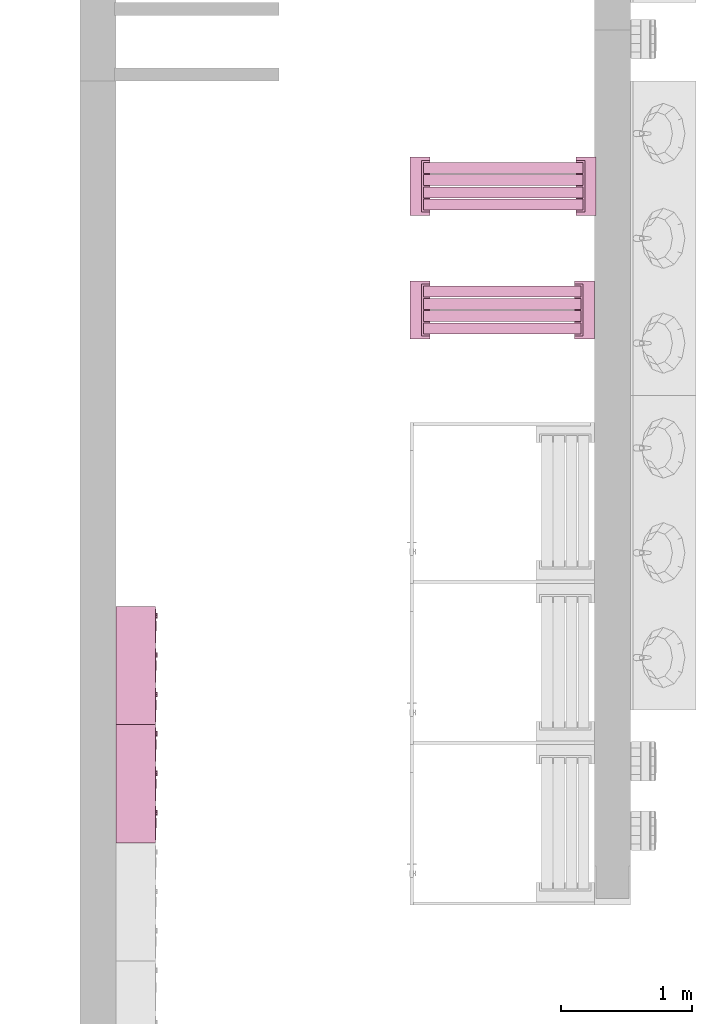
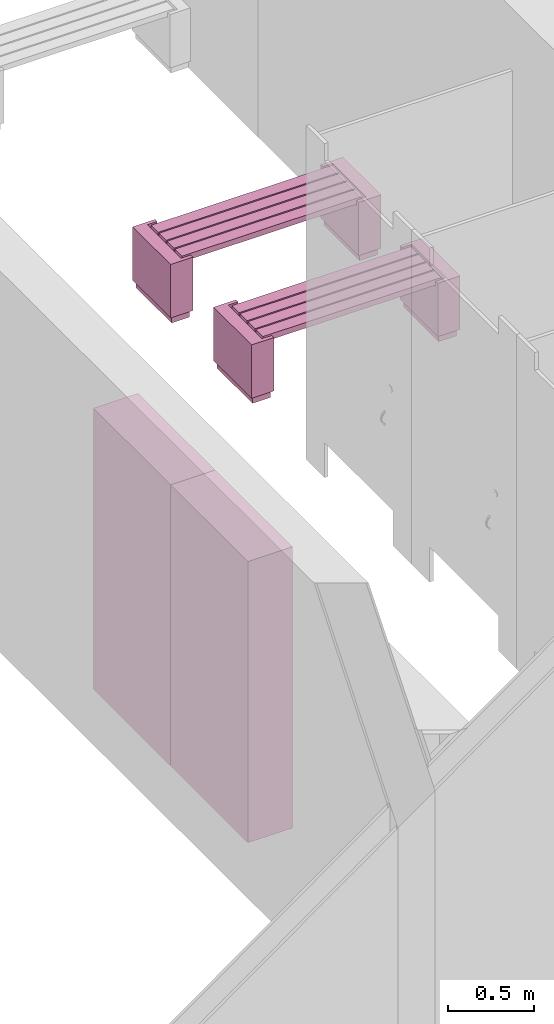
# One storey, part 17 of 22: 4 furnishings.
"""IFC2X3 building model written with IfcOpenShell, lengths in millimetres."""

from ifc_helpers import new_model, entity, si_unit, converted_unit, derived_unit, direction, frame, frame_2d, origin, origin_2d_with_axis, place, context, subcontext, project, spatial, polyline, rectangle, outline, extrude, source, transform, mapped, material, material_list, type_object, type_shapes, element, save


model = new_model("IFC2X3")

# Units and contexts
model_context = context("Model", 3, precision=0.01, world=origin(), true_north=direction((6.12303176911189e-17, 1.0)))
body_context = subcontext(model_context, "Body", "Model", "MODEL_VIEW")
ifc_project = project(units=[si_unit("LENGTHUNIT", "METRE", prefix="MILLI"), si_unit("AREAUNIT", "SQUARE_METRE"), si_unit("VOLUMEUNIT", "CUBIC_METRE"), converted_unit("PLANEANGLEUNIT", "DEGREE", entity("IfcRatioMeasure", 0.0174532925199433), si_unit("PLANEANGLEUNIT", "RADIAN"), dimensions=[0, 0, 0, 0, 0, 0, 0]), si_unit("MASSUNIT", "GRAM", prefix="KILO"), derived_unit("MASSDENSITYUNIT", [(si_unit("MASSUNIT", "GRAM", prefix="KILO"), 1), (si_unit("LENGTHUNIT", "METRE"), -3)]), si_unit("TIMEUNIT", "SECOND"), si_unit("FREQUENCYUNIT", "HERTZ"), si_unit("THERMODYNAMICTEMPERATUREUNIT", "DEGREE_CELSIUS"), derived_unit("THERMALTRANSMITTANCEUNIT", [(si_unit("MASSUNIT", "GRAM", prefix="KILO"), 1), (si_unit("THERMODYNAMICTEMPERATUREUNIT", "KELVIN"), -1), (si_unit("TIMEUNIT", "SECOND"), -3)]), derived_unit("VOLUMETRICFLOWRATEUNIT", [(si_unit("LENGTHUNIT", "METRE"), 3), (si_unit("TIMEUNIT", "SECOND"), -1)]), si_unit("ELECTRICCURRENTUNIT", "AMPERE"), si_unit("ELECTRICVOLTAGEUNIT", "VOLT"), si_unit("POWERUNIT", "WATT"), si_unit("FORCEUNIT", "NEWTON", prefix="KILO"), si_unit("ILLUMINANCEUNIT", "LUX"), si_unit("LUMINOUSFLUXUNIT", "LUMEN"), si_unit("LUMINOUSINTENSITYUNIT", "CANDELA"), derived_unit("USERDEFINED", [(si_unit("MASSUNIT", "GRAM", prefix="KILO"), -1), (si_unit("LENGTHUNIT", "METRE"), -2), (si_unit("TIMEUNIT", "SECOND"), 3), (si_unit("LUMINOUSFLUXUNIT", "LUMEN"), 1)]), derived_unit("LINEARVELOCITYUNIT", [(si_unit("LENGTHUNIT", "METRE"), 1), (si_unit("TIMEUNIT", "SECOND"), -1)]), si_unit("PRESSUREUNIT", "PASCAL"), derived_unit("USERDEFINED", [(si_unit("LENGTHUNIT", "METRE"), -2), (si_unit("MASSUNIT", "GRAM", prefix="KILO"), 1), (si_unit("TIMEUNIT", "SECOND"), -2)])], contexts=[model_context])

# Site, building, storey
site_placement = place(None, origin())
site = spatial("IfcSite", under=ifc_project, at=site_placement, Name="Default", CompositionType="ELEMENT")
building_placement = place(site_placement, origin())
building = spatial("IfcBuilding", under=site, at=building_placement, CompositionType="ELEMENT")
storey_placement = place(building_placement, frame((0.0, 0.0, -3000.0)))
storey = spatial("IfcBuildingStorey", under=building, at=storey_placement, Name="-2. Story", CompositionType="ELEMENT", Elevation=-3000.0)

# Furnishings
ifc_material_1 = material(Name="Metal - Stainless Steel")
ifc_material_2 = material(Name="Paint - Glossy White")
ifc_material_3 = material(Name="Paint - Cobalt Blue")
ifc_material_list_1 = material_list([ifc_material_1, ifc_material_2, ifc_material_3])
ifc_material_list_2 = material_list([ifc_material_1, ifc_material_2, ifc_material_3])
furniture_type_1 = type_object("IfcFurnitureType", Name="FU - 010", material=ifc_material_list_2)
shared_shape_1 = source(origin(), body_context, "Body", "SweptSolid", [
    extrude(outline(polyline([(-7.65366864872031, -18.4775906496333), (7.65366864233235, -18.4775906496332), (18.4775906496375, -7.65366864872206), (18.4775906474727, 7.65366864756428), (7.65366864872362, 18.4775906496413), (-7.65366864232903, 18.4775906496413), (-18.4775906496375, 7.65366864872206), (-18.4775906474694, -7.65366864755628), (-7.65366864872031, -18.4775906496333)])), frame((108074.18836, 77833.9483369, -1400.0), z_axis=(1.0, 0.0, 0.0), x_axis=(0.0, 0.382683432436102, -0.923879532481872)), (0.0, 0.0, 1.0), 10.0000000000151),
    extrude(rectangle(XDim=4.99999999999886, YDim=75.0000000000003, at=frame_2d((-8.66284821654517e-12, 0.0), x_axis=(1.0, 0.0))), frame((108076.68836, 77753.9483369, -1000.0)), (0.0, 0.0, 1.0), 50.0),
    extrude(rectangle(XDim=9.99999999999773, YDim=259.999999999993, at=frame_2d((-1.73256964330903e-11, 0.0), x_axis=(1.0, 0.0))), frame((108069.18836, 77753.9483369, -1880.0), z_axis=(0.0, 0.0, 1.0), x_axis=(-1.0, 0.0, 0.0)), (0.0, 0.0, 1.0), 960.0),
    extrude(rectangle(XDim=19.9999999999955, YDim=300.000000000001, at=origin_2d_with_axis()), frame((107779.18836, 77753.9483369, -1900.0)), (0.0, 0.0, 1.0), 1000.0),
    extrude(outline(polyline([(-150.0, -500.0), (150.0, -500.0), (150.0, 500.0), (-150.0, 500.0), (-150.0, -500.0)]), holes=[polyline([(130.0, 480.0), (130.0, -480.0), (-130.0, -480.0), (-130.0, 480.0), (130.0, 480.0)])]), frame((107789.18836, 77753.9483369, -1400.0), z_axis=(1.0, 0.0, 0.0), x_axis=(0.0, 1.0, 0.0)), (0.0, 0.0, 1.0), 280.000000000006),
    extrude(outline(polyline([(-7.65366864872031, -18.4775906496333), (7.65366864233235, -18.4775906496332), (18.4775906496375, -7.65366864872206), (18.4775906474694, 7.65366864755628), (7.65366864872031, 18.4775906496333), (-7.65366864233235, 18.4775906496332), (-18.4775906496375, 7.65366864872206), (-18.4775906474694, -7.65366864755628), (-7.65366864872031, -18.4775906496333)])), frame((108074.18836, 78133.9483369, -1400.0), z_axis=(1.0, 0.0, 0.0), x_axis=(0.0, 0.382683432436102, -0.923879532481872)), (0.0, 0.0, 1.0), 10.0000000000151),
    extrude(rectangle(XDim=4.99999999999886, YDim=75.0000000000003, at=frame_2d((-8.66284821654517e-12, 0.0), x_axis=(1.0, 0.0))), frame((108076.68836, 78053.9483369, -1000.0)), (0.0, 0.0, 1.0), 50.0),
    extrude(rectangle(XDim=9.99999999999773, YDim=260.00000000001, at=frame_2d((-1.73256964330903e-11, 0.0), x_axis=(1.0, 0.0))), frame((108069.18836, 78053.9483369, -1880.0), z_axis=(0.0, 0.0, 1.0), x_axis=(-1.0, 0.0, 0.0)), (0.0, 0.0, 1.0), 960.0),
    extrude(rectangle(XDim=19.9999999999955, YDim=300.000000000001, at=origin_2d_with_axis()), frame((107779.18836, 78053.9483369, -1900.0)), (0.0, 0.0, 1.0), 1000.0),
    extrude(outline(polyline([(-150.0, -500.0), (150.0, -500.0), (150.0, 500.0), (-150.0, 500.0), (-150.0, -500.0)]), holes=[polyline([(130.0, 480.0), (130.0, -480.0), (-130.0, -480.0), (-130.0, 480.0), (130.0, 480.0)])]), frame((107789.18836, 78053.9483369, -1400.0), z_axis=(1.0, 0.0, 0.0), x_axis=(0.0, 1.0, 0.0)), (0.0, 0.0, 1.0), 280.000000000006),
    extrude(outline(polyline([(-7.65366864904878, -18.4775906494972), (7.65366864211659, -18.4775906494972), (18.4775906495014, -7.65366864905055), (18.4775906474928, 7.65366864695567), (7.65366864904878, 18.4775906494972), (-7.65366864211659, 18.4775906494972), (-18.4775906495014, 7.65366864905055), (-18.4775906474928, -7.65366864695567), (-7.65366864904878, -18.4775906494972)])), frame((108074.18836, 78433.9483369, -1400.0), z_axis=(1.0, 0.0, 0.0), x_axis=(0.0, 0.382683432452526, -0.923879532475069)), (0.0, 0.0, 1.0), 10.0000000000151),
    extrude(rectangle(XDim=4.99999999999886, YDim=75.0000000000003, at=frame_2d((-8.66284821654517e-12, 0.0), x_axis=(1.0, 0.0))), frame((108076.68836, 78353.9483369, -1000.0)), (0.0, 0.0, 1.0), 50.0),
    extrude(rectangle(XDim=9.99999999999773, YDim=260.00000000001, at=frame_2d((-1.73256964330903e-11, 0.0), x_axis=(1.0, 0.0))), frame((108069.18836, 78353.9483369, -1880.0), z_axis=(0.0, 0.0, 1.0), x_axis=(-1.0, 0.0, 0.0)), (0.0, 0.0, 1.0), 960.0),
    extrude(rectangle(XDim=19.9999999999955, YDim=300.000000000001, at=origin_2d_with_axis()), frame((107779.18836, 78353.9483369, -1900.0)), (0.0, 0.0, 1.0), 1000.0),
    extrude(outline(polyline([(-150.0, -500.0), (150.0, -500.0), (150.0, 500.0), (-150.0, 500.0), (-150.0, -500.0)]), holes=[polyline([(130.0, 480.0), (130.0, -480.0), (-130.0, -480.0), (-130.0, 480.0), (130.0, 480.0)])]), frame((107789.18836, 78353.9483369, -1400.0), z_axis=(1.0, 0.0, 0.0), x_axis=(0.0, 1.0, 0.0)), (0.0, 0.0, 1.0), 280.000000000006),
    extrude(outline(polyline([(-7.6536686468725, -18.4775906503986), (7.65366864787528, -18.4775906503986), (18.4775906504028, -7.65366864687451), (18.4775906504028, 7.65366864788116), (7.65366864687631, 18.4775906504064), (-7.65366864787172, 18.4775906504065), (-18.4775906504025, 7.65366864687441), (-18.4775906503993, -7.65366864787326), (-7.6536686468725, -18.4775906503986)])), frame((108074.18836, 77833.9483369, -2400.0), z_axis=(1.0, 0.0, 0.0), x_axis=(0.0, 0.382683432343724, -0.923879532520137)), (0.0, 0.0, 1.0), 10.0000000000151),
    extrude(rectangle(XDim=4.99999999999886, YDim=75.0000000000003, at=frame_2d((-8.66284821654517e-12, 0.0), x_axis=(1.0, 0.0))), frame((108076.68836, 77753.9483369, -2000.0)), (0.0, 0.0, 1.0), 50.0),
    extrude(rectangle(XDim=9.99999999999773, YDim=259.999999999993, at=frame_2d((-1.73256964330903e-11, 0.0), x_axis=(1.0, 0.0))), frame((108069.18836, 77753.9483369, -2880.0), z_axis=(0.0, 0.0, 1.0), x_axis=(-1.0, 0.0, 0.0)), (0.0, 0.0, 1.0), 960.0),
    extrude(rectangle(XDim=19.9999999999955, YDim=300.000000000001, at=origin_2d_with_axis()), frame((107779.18836, 77753.9483369, -2900.0)), (0.0, 0.0, 1.0), 1000.0),
    extrude(outline(polyline([(-150.0, -500.0), (150.0, -500.0), (150.0, 500.0), (-150.0, 500.0), (-150.0, -500.0)]), holes=[polyline([(130.0, 480.0), (130.0, -480.0), (-130.0, -480.0), (-130.0, 480.0), (130.0, 480.0)])]), frame((107789.18836, 77753.9483369, -2400.0), z_axis=(1.0, 0.0, 0.0), x_axis=(0.0, 1.0, 0.0)), (0.0, 0.0, 1.0), 280.000000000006),
    extrude(outline(polyline([(-7.6536686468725, -18.4775906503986), (7.65366864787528, -18.4775906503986), (18.4775906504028, -7.65366864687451), (18.4775906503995, 7.65366864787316), (7.653668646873, 18.4775906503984), (-7.65366864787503, 18.4775906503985), (-18.4775906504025, 7.65366864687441), (-18.4775906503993, -7.65366864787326), (-7.6536686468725, -18.4775906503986)])), frame((108074.18836, 78133.9483369, -2400.0), z_axis=(1.0, 0.0, 0.0), x_axis=(0.0, 0.382683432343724, -0.923879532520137)), (0.0, 0.0, 1.0), 10.0000000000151),
    extrude(rectangle(XDim=4.99999999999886, YDim=75.0000000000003, at=frame_2d((-8.66284821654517e-12, 0.0), x_axis=(1.0, 0.0))), frame((108076.68836, 78053.9483369, -2000.0)), (0.0, 0.0, 1.0), 50.0),
    extrude(rectangle(XDim=9.99999999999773, YDim=260.00000000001, at=frame_2d((-1.73256964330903e-11, 0.0), x_axis=(1.0, 0.0))), frame((108069.18836, 78053.9483369, -2880.0), z_axis=(0.0, 0.0, 1.0), x_axis=(-1.0, 0.0, 0.0)), (0.0, 0.0, 1.0), 960.0),
    extrude(rectangle(XDim=19.9999999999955, YDim=300.000000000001, at=origin_2d_with_axis()), frame((107779.18836, 78053.9483369, -2900.0)), (0.0, 0.0, 1.0), 1000.0),
    extrude(outline(polyline([(-150.0, -500.0), (150.0, -500.0), (150.0, 500.0), (-150.0, 500.0), (-150.0, -500.0)]), holes=[polyline([(130.0, 480.0), (130.0, -480.0), (-130.0, -480.0), (-130.0, 480.0), (130.0, 480.0)])]), frame((107789.18836, 78053.9483369, -2400.0), z_axis=(1.0, 0.0, 0.0), x_axis=(0.0, 1.0, 0.0)), (0.0, 0.0, 1.0), 280.000000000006),
    extrude(outline(polyline([(-7.65366864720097, -18.4775906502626), (7.65366864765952, -18.4775906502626), (18.4775906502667, -7.65366864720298), (18.4775906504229, 7.65366864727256), (7.65366864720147, 18.4775906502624), (-7.65366864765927, 18.4775906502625), (-18.4775906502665, 7.65366864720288), (-18.4775906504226, -7.65366864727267), (-7.65366864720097, -18.4775906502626)])), frame((108074.18836, 78433.9483369, -2400.0), z_axis=(1.0, 0.0, 0.0), x_axis=(0.0, 0.382683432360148, -0.923879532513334)), (0.0, 0.0, 1.0), 10.0000000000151),
    extrude(rectangle(XDim=4.99999999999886, YDim=75.0000000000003, at=frame_2d((-8.66284821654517e-12, 0.0), x_axis=(1.0, 0.0))), frame((108076.68836, 78353.9483369, -2000.0)), (0.0, 0.0, 1.0), 50.0),
    extrude(rectangle(XDim=9.99999999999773, YDim=260.00000000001, at=frame_2d((-1.73256964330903e-11, 0.0), x_axis=(1.0, 0.0))), frame((108069.18836, 78353.9483369, -2880.0), z_axis=(0.0, 0.0, 1.0), x_axis=(-1.0, 0.0, 0.0)), (0.0, 0.0, 1.0), 960.0),
    extrude(rectangle(XDim=19.9999999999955, YDim=300.000000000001, at=origin_2d_with_axis()), frame((107779.18836, 78353.9483369, -2900.0)), (0.0, 0.0, 1.0), 1000.0),
    extrude(outline(polyline([(-150.0, -500.0), (150.0, -500.0), (150.0, 500.0), (-150.0, 500.0), (-150.0, -500.0)]), holes=[polyline([(130.0, 480.0), (130.0, -480.0), (-130.0, -480.0), (-130.0, 480.0), (130.0, 480.0)])]), frame((107789.18836, 78353.9483369, -2400.0), z_axis=(1.0, 0.0, 0.0), x_axis=(0.0, 1.0, 0.0)), (0.0, 0.0, 1.0), 280.000000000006),
])
type_shapes(furniture_type_1, [shared_shape_1])
furnishing_1_placement = place(storey_placement, frame((0.0, 0.0, 3000.0)))
element("IfcFurnishingElement", 1, at=furnishing_1_placement, inside=storey, type_object=furniture_type_1, material=ifc_material_list_1, Name="FU - 010 1590366:FU - 010 1590366", ObjectType="FU - 010 1590366:FU - 010 1590366", context=body_context, shape_type="MappedRepresentation", body=[
    mapped(shared_shape_1, transform((0.0, 0.0, 0.0), scale=1.0)),
])
ifc_material_4 = material(Name="Wood - Pine Grained Horizontal")
ifc_material_5 = material(Name="Paint - Titanium White")
ifc_material_list_3 = material_list([ifc_material_4, ifc_material_5])
ifc_material_list_4 = material_list([ifc_material_4, ifc_material_5])
furniture_type_2 = type_object("IfcFurnitureType", Name="FU - 011", material=ifc_material_list_4)
shared_shape_2 = source(origin(), body_context, "Body", "SweptSolid", [
    extrude(rectangle(XDim=1214.87365918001, YDim=83.1575481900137, at=frame_2d((-8.69704308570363e-12, 0.0), x_axis=(1.0, 0.0))), frame((110716.29375159, 81564.212014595, -2510.0), z_axis=(0.0, 0.0, 1.0), x_axis=(-1.0, 0.0, 0.0)), (0.0, 0.0, 1.0), 40.0000000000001),
    extrude(rectangle(XDim=1214.87365918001, YDim=83.1575481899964, at=frame_2d((-8.69704308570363e-12, -8.66506866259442e-12), x_axis=(1.0, 0.0))), frame((110716.29375159, 81657.369562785, -2510.0), z_axis=(0.0, 0.0, 1.0), x_axis=(-1.0, 0.0, 0.0)), (0.0, 0.0, 1.0), 40.0000000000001),
    extrude(rectangle(XDim=1214.87365918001, YDim=83.1575481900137, at=frame_2d((-8.69704308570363e-12, 0.0), x_axis=(1.0, 0.0))), frame((110716.29375159, 81750.527110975, -2510.0), z_axis=(0.0, 0.0, 1.0), x_axis=(-1.0, 0.0, 0.0)), (0.0, 0.0, 1.0), 40.0000000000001),
    extrude(rectangle(XDim=1214.87365918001, YDim=83.157548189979, at=frame_2d((-8.69704308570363e-12, 0.0), x_axis=(1.0, 0.0))), frame((110716.29375159, 81843.684659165, -2510.0), z_axis=(0.0, 0.0, 1.0), x_axis=(-1.0, 0.0, 0.0)), (0.0, 0.0, 1.0), 40.0000000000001),
    extrude(outline(polyline([(-221.315096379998, -96.2500000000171), (221.315096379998, -96.2500000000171), (221.315096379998, 53.7499999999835), (196.315096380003, 53.7499999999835), (196.315096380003, -11.2500000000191), (-196.315096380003, -11.2500000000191), (-196.315096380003, 53.7499999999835), (-221.315096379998, 53.7499999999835), (-221.315096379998, -96.2500000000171)])), frame((111327.48058118, 81703.94833688, -2510.0), z_axis=(0.0, 0.0, 1.0), x_axis=(0.0, 1.0, 0.0)), (0.0, 0.0, 1.0), 40.0000000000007),
    extrude(rectangle(XDim=442.630192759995, YDim=150.000000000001, at=origin_2d_with_axis()), frame((111348.73058118, 81703.94833688, -2850.0), z_axis=(0.0, 0.0, 1.0), x_axis=(0.0, 1.0, 0.0)), (0.0, 0.0, 1.0), 340.0),
    extrude(rectangle(XDim=412.630192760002, YDim=120.000000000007, at=origin_2d_with_axis()), frame((111348.73058118, 81703.94833688, -2900.0), z_axis=(0.0, 0.0, 1.0), x_axis=(0.0, 1.0, 0.0)), (0.0, 0.0, 1.0), 50.0),
    extrude(outline(polyline([(-53.7500000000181, -221.315096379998), (96.2499999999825, -221.315096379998), (96.2499999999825, 221.315096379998), (-53.7500000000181, 221.315096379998), (-53.7500000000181, 196.315096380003), (11.2499999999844, 196.315096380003), (11.2499999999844, -196.315096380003), (-53.7500000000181, -196.315096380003), (-53.7500000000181, -221.315096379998)])), frame((110105.106922, 81703.94833688, -2510.0), z_axis=(0.0, 0.0, 1.0), x_axis=(-1.0, 0.0, 0.0)), (0.0, 0.0, 1.0), 40.0000000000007),
    extrude(rectangle(XDim=150.000000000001, YDim=442.630192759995, at=origin_2d_with_axis()), frame((110083.856922, 81703.94833688, -2850.0), z_axis=(0.0, 0.0, 1.0), x_axis=(-1.0, 0.0, 0.0)), (0.0, 0.0, 1.0), 340.0),
    extrude(rectangle(XDim=120.000000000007, YDim=412.630192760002, at=origin_2d_with_axis()), frame((110083.856922, 81703.94833688, -2900.0), z_axis=(0.0, 0.0, 1.0), x_axis=(-1.0, 0.0, 0.0)), (0.0, 0.0, 1.0), 50.0),
])
type_shapes(furniture_type_2, [shared_shape_2])
furnishing_2_placement = place(storey_placement, frame((0.0, 0.0, 3000.0)))
element("IfcFurnishingElement", 2, at=furnishing_2_placement, inside=storey, type_object=furniture_type_2, material=ifc_material_list_3, Name="FU - 011 1590938:FU - 011 1590938", ObjectType="FU - 011 1590938:FU - 011 1590938", context=body_context, shape_type="MappedRepresentation", body=[
    mapped(shared_shape_2, transform((0.0, 0.0, 0.0), scale=1.0)),
])
ifc_material_list_5 = material_list([ifc_material_4, ifc_material_5])
ifc_material_list_6 = material_list([ifc_material_4, ifc_material_5])
furniture_type_3 = type_object("IfcFurnitureType", Name="FU - 011", material=ifc_material_list_6)
shared_shape_3 = source(origin(), body_context, "Body", "SweptSolid", [
    extrude(rectangle(XDim=1202.37365918, YDim=83.1575481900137, at=frame_2d((-8.64019966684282e-12, 0.0), x_axis=(1.0, 0.0))), frame((110710.04375159, 80621.581821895, -2510.0), z_axis=(0.0, 0.0, 1.0), x_axis=(-1.0, 0.0, 0.0)), (0.0, 0.0, 1.0), 40.0000000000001),
    extrude(rectangle(XDim=1202.37365918, YDim=83.1575481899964, at=frame_2d((-8.64019966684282e-12, -8.66506866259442e-12), x_axis=(1.0, 0.0))), frame((110710.04375159, 80714.739370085, -2510.0), z_axis=(0.0, 0.0, 1.0), x_axis=(-1.0, 0.0, 0.0)), (0.0, 0.0, 1.0), 40.0000000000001),
    extrude(rectangle(XDim=1202.37365918, YDim=83.1575481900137, at=frame_2d((-8.64019966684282e-12, 0.0), x_axis=(1.0, 0.0))), frame((110710.04375159, 80807.896918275, -2510.0), z_axis=(0.0, 0.0, 1.0), x_axis=(-1.0, 0.0, 0.0)), (0.0, 0.0, 1.0), 40.0000000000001),
    extrude(rectangle(XDim=1202.37365918, YDim=83.157548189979, at=frame_2d((-8.64019966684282e-12, 0.0), x_axis=(1.0, 0.0))), frame((110710.04375159, 80901.054466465, -2510.0), z_axis=(0.0, 0.0, 1.0), x_axis=(-1.0, 0.0, 0.0)), (0.0, 0.0, 1.0), 40.0000000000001),
    extrude(outline(polyline([(-221.315096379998, -96.2500000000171), (221.315096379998, -96.2500000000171), (221.315096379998, 53.7499999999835), (196.315096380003, 53.7499999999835), (196.315096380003, -11.2500000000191), (-196.315096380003, -11.2500000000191), (-196.315096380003, 53.7499999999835), (-221.315096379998, 53.7499999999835), (-221.315096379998, -96.2500000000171)])), frame((111314.98058118, 80761.31814418, -2510.0), z_axis=(0.0, 0.0, 1.0), x_axis=(0.0, 1.0, 0.0)), (0.0, 0.0, 1.0), 40.0000000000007),
    extrude(rectangle(XDim=442.630192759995, YDim=150.000000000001, at=origin_2d_with_axis()), frame((111336.23058118, 80761.31814418, -2850.0), z_axis=(0.0, 0.0, 1.0), x_axis=(0.0, 1.0, 0.0)), (0.0, 0.0, 1.0), 340.0),
    extrude(rectangle(XDim=412.630192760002, YDim=119.99999999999, at=frame_2d((0.0, -8.66506866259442e-12), x_axis=(1.0, 0.0))), frame((111336.23058118, 80761.31814418, -2900.0), z_axis=(0.0, 0.0, 1.0), x_axis=(0.0, 1.0, 0.0)), (0.0, 0.0, 1.0), 50.0),
    extrude(outline(polyline([(-53.7500000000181, -221.315096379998), (96.2499999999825, -221.315096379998), (96.2499999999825, 221.315096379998), (-53.7500000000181, 221.315096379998), (-53.7500000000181, 196.315096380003), (11.2499999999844, 196.315096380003), (11.2499999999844, -196.315096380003), (-53.7500000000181, -196.315096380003), (-53.7500000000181, -221.315096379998)])), frame((110105.106922, 80761.31814418, -2510.0), z_axis=(0.0, 0.0, 1.0), x_axis=(-1.0, 0.0, 0.0)), (0.0, 0.0, 1.0), 40.0000000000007),
    extrude(rectangle(XDim=150.000000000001, YDim=442.630192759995, at=origin_2d_with_axis()), frame((110083.856922, 80761.31814418, -2850.0), z_axis=(0.0, 0.0, 1.0), x_axis=(-1.0, 0.0, 0.0)), (0.0, 0.0, 1.0), 340.0),
    extrude(rectangle(XDim=120.000000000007, YDim=412.630192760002, at=origin_2d_with_axis()), frame((110083.856922, 80761.31814418, -2900.0), z_axis=(0.0, 0.0, 1.0), x_axis=(-1.0, 0.0, 0.0)), (0.0, 0.0, 1.0), 50.0),
])
type_shapes(furniture_type_3, [shared_shape_3])
furnishing_3_placement = place(storey_placement, frame((0.0, 0.0, 3000.0)))
element("IfcFurnishingElement", 3, at=furnishing_3_placement, inside=storey, type_object=furniture_type_3, material=ifc_material_list_5, Name="FU - 011 1591087:FU - 011 1591087", ObjectType="FU - 011 1591087:FU - 011 1591087", context=body_context, shape_type="MappedRepresentation", body=[
    mapped(shared_shape_3, transform((0.0, 0.0, 0.0), scale=1.0)),
])
ifc_material_list_7 = material_list([ifc_material_1, ifc_material_2, ifc_material_3])
ifc_material_list_8 = material_list([ifc_material_1, ifc_material_2, ifc_material_3])
furniture_type_4 = type_object("IfcFurnitureType", Name="FU - 010", material=ifc_material_list_8)
shared_shape_4 = source(origin(), body_context, "Body", "SweptSolid", [
    extrude(outline(polyline([(-7.65366864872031, -18.4775906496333), (7.65366864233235, -18.4775906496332), (18.4775906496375, -7.65366864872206), (18.4775906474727, 7.65366864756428), (7.65366864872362, 18.4775906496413), (-7.65366864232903, 18.4775906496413), (-18.4775906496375, 7.65366864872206), (-18.4775906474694, -7.65366864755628), (-7.65366864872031, -18.4775906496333)])), frame((108074.18836, 76933.9483369, -1400.0), z_axis=(1.0, 0.0, 0.0), x_axis=(0.0, 0.382683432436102, -0.923879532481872)), (0.0, 0.0, 1.0), 10.0000000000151),
    extrude(rectangle(XDim=4.99999999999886, YDim=75.0000000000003, at=frame_2d((-8.66284821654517e-12, 0.0), x_axis=(1.0, 0.0))), frame((108076.68836, 76853.9483369, -1000.0)), (0.0, 0.0, 1.0), 50.0),
    extrude(rectangle(XDim=9.99999999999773, YDim=260.000000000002, at=frame_2d((-1.73256964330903e-11, -4.32009983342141e-12), x_axis=(1.0, 0.0))), frame((108069.18836, 76853.9483369, -1880.0), z_axis=(0.0, 0.0, 1.0), x_axis=(-1.0, 0.0, 0.0)), (0.0, 0.0, 1.0), 960.0),
    extrude(rectangle(XDim=19.9999999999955, YDim=300.000000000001, at=origin_2d_with_axis()), frame((107779.18836, 76853.9483369, -1900.0)), (0.0, 0.0, 1.0), 1000.0),
    extrude(outline(polyline([(-150.0, -500.0), (150.0, -500.0), (150.0, 500.0), (-150.0, 500.0), (-150.0, -500.0)]), holes=[polyline([(130.0, 480.0), (130.0, -480.0), (-130.0, -480.0), (-130.0, 480.0), (130.0, 480.0)])]), frame((107789.18836, 76853.9483369, -1400.0), z_axis=(1.0, 0.0, 0.0), x_axis=(0.0, 1.0, 0.0)), (0.0, 0.0, 1.0), 280.000000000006),
    extrude(outline(polyline([(-7.65366864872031, -18.4775906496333), (7.65366864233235, -18.4775906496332), (18.4775906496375, -7.65366864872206), (18.4775906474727, 7.65366864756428), (7.65366864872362, 18.4775906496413), (-7.65366864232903, 18.4775906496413), (-18.4775906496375, 7.65366864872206), (-18.4775906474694, -7.65366864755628), (-7.65366864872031, -18.4775906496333)])), frame((108074.18836, 77233.9483369, -1400.0), z_axis=(1.0, 0.0, 0.0), x_axis=(0.0, 0.382683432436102, -0.923879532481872)), (0.0, 0.0, 1.0), 10.0000000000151),
    extrude(rectangle(XDim=4.99999999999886, YDim=75.0000000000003, at=frame_2d((-8.66284821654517e-12, 0.0), x_axis=(1.0, 0.0))), frame((108076.68836, 77153.9483369, -1000.0)), (0.0, 0.0, 1.0), 50.0),
    extrude(rectangle(XDim=9.99999999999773, YDim=260.000000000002, at=frame_2d((-1.73256964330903e-11, -4.32009983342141e-12), x_axis=(1.0, 0.0))), frame((108069.18836, 77153.9483369, -1880.0), z_axis=(0.0, 0.0, 1.0), x_axis=(-1.0, 0.0, 0.0)), (0.0, 0.0, 1.0), 960.0),
    extrude(rectangle(XDim=19.9999999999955, YDim=300.000000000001, at=origin_2d_with_axis()), frame((107779.18836, 77153.9483369, -1900.0)), (0.0, 0.0, 1.0), 1000.0),
    extrude(outline(polyline([(-150.0, -500.0), (150.0, -500.0), (150.0, 500.0), (-150.0, 500.0), (-150.0, -500.0)]), holes=[polyline([(130.0, 480.0), (130.0, -480.0), (-130.0, -480.0), (-130.0, 480.0), (130.0, 480.0)])]), frame((107789.18836, 77153.9483369, -1400.0), z_axis=(1.0, 0.0, 0.0), x_axis=(0.0, 1.0, 0.0)), (0.0, 0.0, 1.0), 280.000000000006),
    extrude(outline(polyline([(-7.65366864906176, -18.4775906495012), (7.65366864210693, -18.4775906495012), (18.4775906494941, -7.65366864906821), (18.4775906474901, 7.65366864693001), (7.65366864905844, 18.4775906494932), (-7.65366864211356, 18.4775906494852), (-18.4775906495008, 7.6536686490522), (-18.4775906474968, -7.65366864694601), (-7.65366864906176, -18.4775906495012)])), frame((108074.18836, 77533.9483369, -1400.0), z_axis=(1.0, 0.0, 0.0), x_axis=(0.0, 0.382683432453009, -0.923879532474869)), (0.0, 0.0, 1.0), 10.0000000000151),
    extrude(rectangle(XDim=4.99999999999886, YDim=75.0000000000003, at=frame_2d((-8.66284821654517e-12, 0.0), x_axis=(1.0, 0.0))), frame((108076.68836, 77453.9483369, -1000.0)), (0.0, 0.0, 1.0), 50.0),
    extrude(rectangle(XDim=9.99999999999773, YDim=260.000000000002, at=frame_2d((-1.73256964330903e-11, -4.32009983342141e-12), x_axis=(1.0, 0.0))), frame((108069.18836, 77453.9483369, -1880.0), z_axis=(0.0, 0.0, 1.0), x_axis=(-1.0, 0.0, 0.0)), (0.0, 0.0, 1.0), 960.0),
    extrude(rectangle(XDim=19.9999999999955, YDim=300.000000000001, at=origin_2d_with_axis()), frame((107779.18836, 77453.9483369, -1900.0)), (0.0, 0.0, 1.0), 1000.0),
    extrude(outline(polyline([(-150.0, -500.0), (150.0, -500.0), (150.0, 500.0), (-150.0, 500.0), (-150.0, -500.0)]), holes=[polyline([(130.0, 480.0), (130.0, -480.0), (-130.0, -480.0), (-130.0, 480.0), (130.0, 480.0)])]), frame((107789.18836, 77453.9483369, -1400.0), z_axis=(1.0, 0.0, 0.0), x_axis=(0.0, 1.0, 0.0)), (0.0, 0.0, 1.0), 280.000000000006),
    extrude(outline(polyline([(-7.6536686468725, -18.4775906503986), (7.65366864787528, -18.4775906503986), (18.4775906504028, -7.65366864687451), (18.4775906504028, 7.65366864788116), (7.65366864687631, 18.4775906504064), (-7.65366864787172, 18.4775906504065), (-18.4775906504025, 7.65366864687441), (-18.4775906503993, -7.65366864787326), (-7.6536686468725, -18.4775906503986)])), frame((108074.18836, 76933.9483369, -2400.0), z_axis=(1.0, 0.0, 0.0), x_axis=(0.0, 0.382683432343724, -0.923879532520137)), (0.0, 0.0, 1.0), 10.0000000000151),
    extrude(rectangle(XDim=4.99999999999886, YDim=75.0000000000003, at=frame_2d((-8.66284821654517e-12, 0.0), x_axis=(1.0, 0.0))), frame((108076.68836, 76853.9483369, -2000.0)), (0.0, 0.0, 1.0), 50.0),
    extrude(rectangle(XDim=9.99999999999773, YDim=260.000000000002, at=frame_2d((-1.73256964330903e-11, -4.32009983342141e-12), x_axis=(1.0, 0.0))), frame((108069.18836, 76853.9483369, -2880.0), z_axis=(0.0, 0.0, 1.0), x_axis=(-1.0, 0.0, 0.0)), (0.0, 0.0, 1.0), 960.0),
    extrude(rectangle(XDim=19.9999999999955, YDim=300.000000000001, at=origin_2d_with_axis()), frame((107779.18836, 76853.9483369, -2900.0)), (0.0, 0.0, 1.0), 1000.0),
    extrude(outline(polyline([(-150.0, -500.0), (150.0, -500.0), (150.0, 500.0), (-150.0, 500.0), (-150.0, -500.0)]), holes=[polyline([(130.0, 480.0), (130.0, -480.0), (-130.0, -480.0), (-130.0, 480.0), (130.0, 480.0)])]), frame((107789.18836, 76853.9483369, -2400.0), z_axis=(1.0, 0.0, 0.0), x_axis=(0.0, 1.0, 0.0)), (0.0, 0.0, 1.0), 280.000000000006),
    extrude(outline(polyline([(-7.6536686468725, -18.4775906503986), (7.65366864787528, -18.4775906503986), (18.4775906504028, -7.65366864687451), (18.4775906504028, 7.65366864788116), (7.65366864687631, 18.4775906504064), (-7.65366864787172, 18.4775906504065), (-18.4775906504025, 7.65366864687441), (-18.4775906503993, -7.65366864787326), (-7.6536686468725, -18.4775906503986)])), frame((108074.18836, 77233.9483369, -2400.0), z_axis=(1.0, 0.0, 0.0), x_axis=(0.0, 0.382683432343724, -0.923879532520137)), (0.0, 0.0, 1.0), 10.0000000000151),
    extrude(rectangle(XDim=4.99999999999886, YDim=75.0000000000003, at=frame_2d((-8.66284821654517e-12, 0.0), x_axis=(1.0, 0.0))), frame((108076.68836, 77153.9483369, -2000.0)), (0.0, 0.0, 1.0), 50.0),
    extrude(rectangle(XDim=9.99999999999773, YDim=260.000000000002, at=frame_2d((-1.73256964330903e-11, -4.32009983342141e-12), x_axis=(1.0, 0.0))), frame((108069.18836, 77153.9483369, -2880.0), z_axis=(0.0, 0.0, 1.0), x_axis=(-1.0, 0.0, 0.0)), (0.0, 0.0, 1.0), 960.0),
    extrude(rectangle(XDim=19.9999999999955, YDim=300.000000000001, at=origin_2d_with_axis()), frame((107779.18836, 77153.9483369, -2900.0)), (0.0, 0.0, 1.0), 1000.0),
    extrude(outline(polyline([(-150.0, -500.0), (150.0, -500.0), (150.0, 500.0), (-150.0, 500.0), (-150.0, -500.0)]), holes=[polyline([(130.0, 480.0), (130.0, -480.0), (-130.0, -480.0), (-130.0, 480.0), (130.0, 480.0)])]), frame((107789.18836, 77153.9483369, -2400.0), z_axis=(1.0, 0.0, 0.0), x_axis=(0.0, 1.0, 0.0)), (0.0, 0.0, 1.0), 280.000000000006),
    extrude(outline(polyline([(-7.65366864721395, -18.4775906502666), (7.65366864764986, -18.4775906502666), (18.4775906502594, -7.65366864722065), (18.4775906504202, 7.65366864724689), (7.65366864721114, 18.4775906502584), (-7.65366864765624, 18.4775906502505), (-18.4775906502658, 7.65366864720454), (-18.4775906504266, -7.653668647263), (-7.65366864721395, -18.4775906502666)])), frame((108074.18836, 77533.9483369, -2400.0), z_axis=(1.0, 0.0, 0.0), x_axis=(0.0, 0.382683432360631, -0.923879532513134)), (0.0, 0.0, 1.0), 10.0000000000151),
    extrude(rectangle(XDim=4.99999999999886, YDim=75.0000000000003, at=frame_2d((-8.66284821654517e-12, 0.0), x_axis=(1.0, 0.0))), frame((108076.68836, 77453.9483369, -2000.0)), (0.0, 0.0, 1.0), 50.0),
    extrude(rectangle(XDim=9.99999999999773, YDim=260.000000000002, at=frame_2d((-1.73256964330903e-11, -4.32009983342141e-12), x_axis=(1.0, 0.0))), frame((108069.18836, 77453.9483369, -2880.0), z_axis=(0.0, 0.0, 1.0), x_axis=(-1.0, 0.0, 0.0)), (0.0, 0.0, 1.0), 960.0),
    extrude(rectangle(XDim=19.9999999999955, YDim=300.000000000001, at=origin_2d_with_axis()), frame((107779.18836, 77453.9483369, -2900.0)), (0.0, 0.0, 1.0), 1000.0),
    extrude(outline(polyline([(-150.0, -500.0), (150.0, -500.0), (150.0, 500.0), (-150.0, 500.0), (-150.0, -500.0)]), holes=[polyline([(130.0, 480.0), (130.0, -480.0), (-130.0, -480.0), (-130.0, 480.0), (130.0, 480.0)])]), frame((107789.18836, 77453.9483369, -2400.0), z_axis=(1.0, 0.0, 0.0), x_axis=(0.0, 1.0, 0.0)), (0.0, 0.0, 1.0), 280.000000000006),
])
type_shapes(furniture_type_4, [shared_shape_4])
furnishing_4_placement = place(storey_placement, frame((0.0, 0.0, 3000.0)))
element("IfcFurnishingElement", 4, at=furnishing_4_placement, inside=storey, type_object=furniture_type_4, material=ifc_material_list_7, Name="FU - 010 1592014:FU - 010 1592014", ObjectType="FU - 010 1592014:FU - 010 1592014", context=body_context, shape_type="MappedRepresentation", body=[
    mapped(shared_shape_4, transform((0.0, 0.0, 0.0), scale=1.0)),
])

save(model, "model.ifc")
